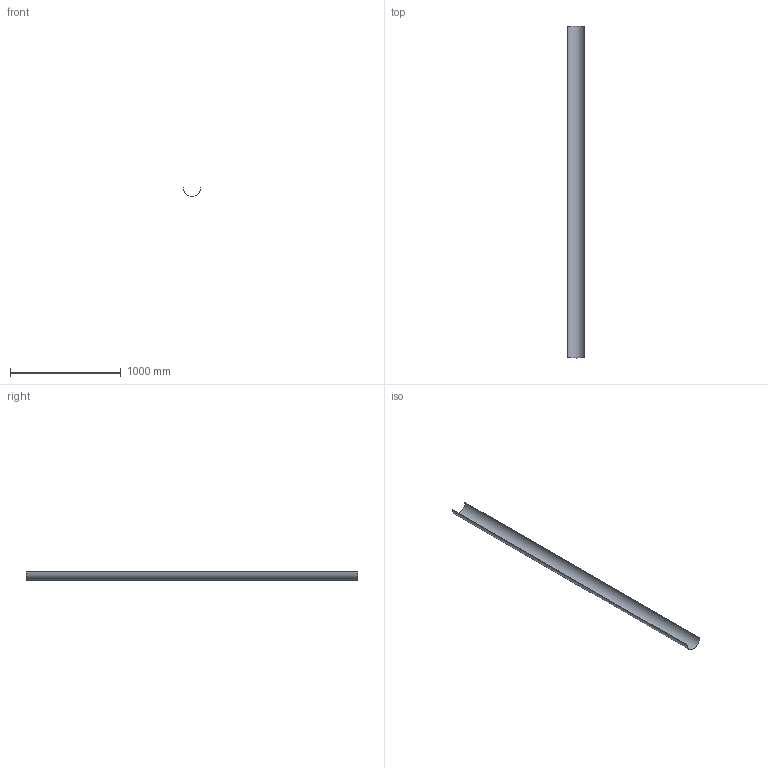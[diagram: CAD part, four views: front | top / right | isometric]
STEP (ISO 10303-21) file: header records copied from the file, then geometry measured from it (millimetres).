
FILE_DESCRIPTION(/* description */ (''),/* implementation_level */ '2;1');
FILE_NAME(/* name */ 'Z:\Geberit\Export\NewStep\369850.stp',/* time_stamp */ '2014-04-02T08:03:27+02:00',/* author */ ('bruh'),/* organization */ (''),/* preprocessor_version */ 'ST-DEVELOPER v15.2',/* originating_system */ 'Autodesk Inventor 2014',/* authorisation */ '');
FILE_SCHEMA (('AUTOMOTIVE_DESIGN { 1 0 10303 214 3 1 1 }'));
Length unit declared in the file: millimetre
Products named in the file (1): 369850
Bounding box: 161.5 x 3000 x 80.75 mm (x, y, z)
Volume: 568137.4 mm3; surface area: 1519911.8 mm2
Topology: 1 solids, 1 shells, 6 faces, 12 edges, 8 vertices
Faces by surface type: plane 4, cylinder 2
Entity records: 187 total; most frequent: DIRECTION 30, CARTESIAN_POINT 27, ORIENTED_EDGE 24, EDGE_CURVE 12, AXIS2_PLACEMENT_3D 11, LINE 8, VECTOR 8, VERTEX_POINT 8
